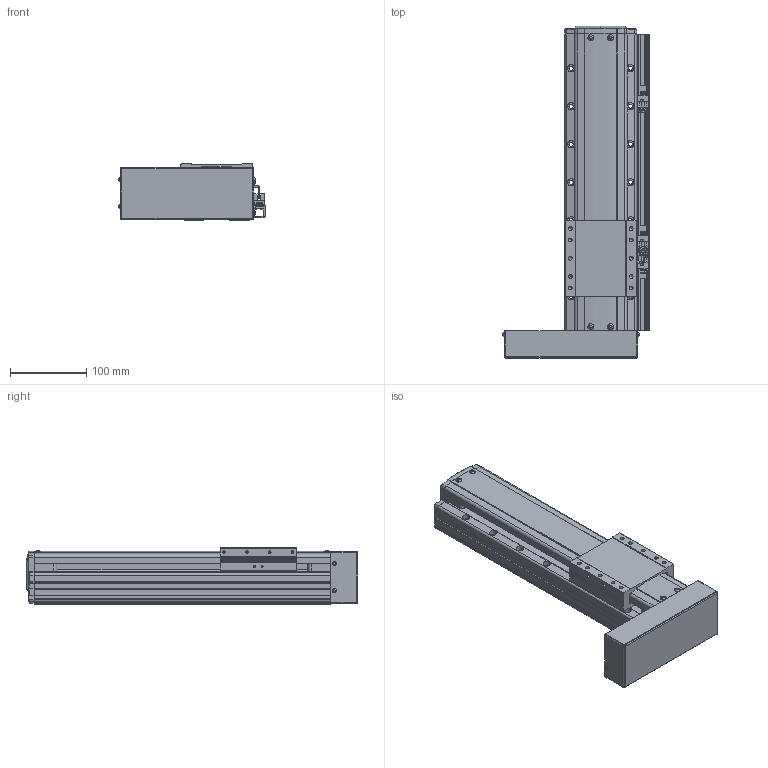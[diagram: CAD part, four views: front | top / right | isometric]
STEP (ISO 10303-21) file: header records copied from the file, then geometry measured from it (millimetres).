
FILE_DESCRIPTION(('STEP AP214'),'1');
FILE_NAME('Z:/Web/3D/PSA95/STP/PSA95-200 (3D)/PSA95ㅁㅁ-200PL+3SR.stp','2014-07-02T23:51:27',(' '),(' '),'Spatial InterOp 3D',' ',' ');
FILE_SCHEMA(('automotive_design'));
Length unit declared in the file: millimetre
Products named in the file (41): BASE; RRCV; 스크루 : Round - M4.0 x 10.0; 너트 : Square - M10.0 x 220.7419; RR1500; FRCV-090; 스크루 : Round - M4.0 x 6.0; SLBL-PA90; MOTOR PLATE COVER; 스크루 : Round - M3.0 x 6.0; EE-SX674; SBK-SX674-352; M3.0 x 6.0; SRL-16x17-380L; SGD-PA95; 스크루 : Round - M3.0 x 8.0
Bounding box: 192.06 x 436.5 x 74 mm (x, y, z)
Volume: 2685726.6 mm3; surface area: 355444 mm2
Topology: 41 solids, 41 shells, 2340 faces, 6234 edges, 4012 vertices
Faces by surface type: plane 1400, cylinder 639, cone 201, sphere 62, bspline 24, torus 14
Entity records: 93908 total; most frequent: CARTESIAN_POINT 15562, DIRECTION 12392, ORIENTED_EDGE 12236, EDGE_CURVE 6118, LINE 4240, VECTOR 4240, AXIS2_PLACEMENT_3D 4076, VERTEX_POINT 4012
